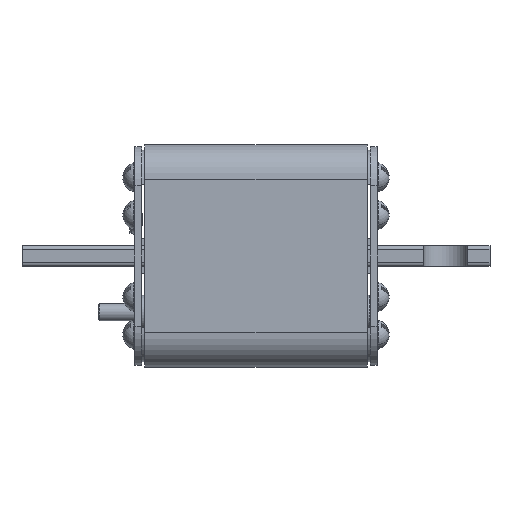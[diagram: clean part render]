
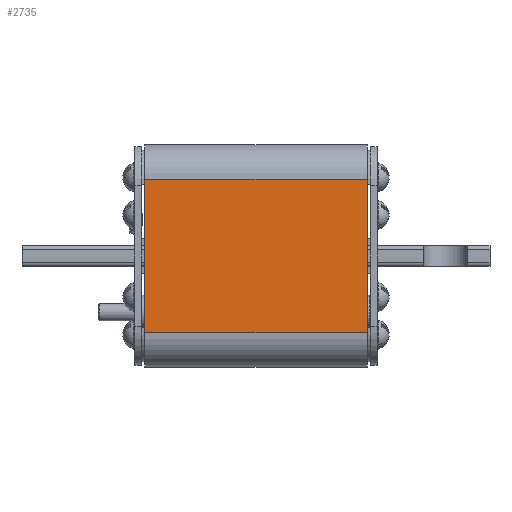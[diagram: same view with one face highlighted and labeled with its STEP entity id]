
A CAD part, front view. The second image highlights one B-rep face of the part: STEP entity #2735.
In plain terms, the highlighted planar face has unit normal (0, -1, 0).
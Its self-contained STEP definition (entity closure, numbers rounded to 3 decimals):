
#2713 = ORIENTED_EDGE ( 'NONE', *, *, #2714, .T. ) ;
#2714 = EDGE_CURVE ( 'NONE', #5787, #2715, #12189, .T. ) ;
#2715 = VERTEX_POINT ( 'NONE', #12185 ) ;
#2735 = ADVANCED_FACE ( 'NONE', ( #12218 ), #12217, .F. ) ;
#2736 = EDGE_LOOP ( 'NONE', ( #2713, #5759, #5762, #5764 ) ) ;
#5757 = EDGE_CURVE ( 'NONE', #5788, #5787, #10639, .T. ) ;
#5759 = ORIENTED_EDGE ( 'NONE', *, *, #5760, .F. ) ;
#5760 = EDGE_CURVE ( 'NONE', #5761, #2715, #10635, .T. ) ;
#5761 = VERTEX_POINT ( 'NONE', #10631 ) ;
#5762 = ORIENTED_EDGE ( 'NONE', *, *, #5763, .F. ) ;
#5763 = EDGE_CURVE ( 'NONE', #5788, #5761, #10630, .T. ) ;
#5764 = ORIENTED_EDGE ( 'NONE', *, *, #5757, .T. ) ;
#5787 = VERTEX_POINT ( 'NONE', #10650 ) ;
#5788 = VERTEX_POINT ( 'NONE', #10649 ) ;
#10627 = DIRECTION ( 'NONE',  ( 0., 0., 1. ) ) ;
#10628 = VECTOR ( 'NONE', #10627, 1000. ) ;
#10629 = CARTESIAN_POINT ( 'NONE',  ( -32.5, -32.5, -22.5 ) ) ;
#10630 = LINE ( 'NONE', #10629, #10628 ) ;
#10631 = CARTESIAN_POINT ( 'NONE',  ( -32.5, -32.5, 22.5 ) ) ;
#10632 = DIRECTION ( 'NONE',  ( 1., 0., 0. ) ) ;
#10633 = VECTOR ( 'NONE', #10632, 1000. ) ;
#10634 = CARTESIAN_POINT ( 'NONE',  ( -32.5, -32.5, 22.5 ) ) ;
#10635 = LINE ( 'NONE', #10634, #10633 ) ;
#10636 = DIRECTION ( 'NONE',  ( 1., 0., 0. ) ) ;
#10637 = VECTOR ( 'NONE', #10636, 1000. ) ;
#10638 = CARTESIAN_POINT ( 'NONE',  ( -32.5, -32.5, -22.5 ) ) ;
#10639 = LINE ( 'NONE', #10638, #10637 ) ;
#10649 = CARTESIAN_POINT ( 'NONE',  ( -32.5, -32.5, -22.5 ) ) ;
#10650 = CARTESIAN_POINT ( 'NONE',  ( 32.5, -32.5, -22.5 ) ) ;
#12185 = CARTESIAN_POINT ( 'NONE',  ( 32.5, -32.5, 22.5 ) ) ;
#12186 = DIRECTION ( 'NONE',  ( 0., 0., 1. ) ) ;
#12187 = VECTOR ( 'NONE', #12186, 1000. ) ;
#12188 = CARTESIAN_POINT ( 'NONE',  ( 32.5, -32.5, -22.5 ) ) ;
#12189 = LINE ( 'NONE', #12188, #12187 ) ;
#12213 = DIRECTION ( 'NONE',  ( 0., 0., -1. ) ) ;
#12214 = DIRECTION ( 'NONE',  ( 0., 1., 0. ) ) ;
#12215 = CARTESIAN_POINT ( 'NONE',  ( -32.5, -32.5, -22.5 ) ) ;
#12216 = AXIS2_PLACEMENT_3D ( 'NONE', #12215, #12214, #12213 ) ;
#12217 = PLANE ( 'NONE',  #12216 ) ;
#12218 = FACE_OUTER_BOUND ( 'NONE', #2736, .T. ) ;
